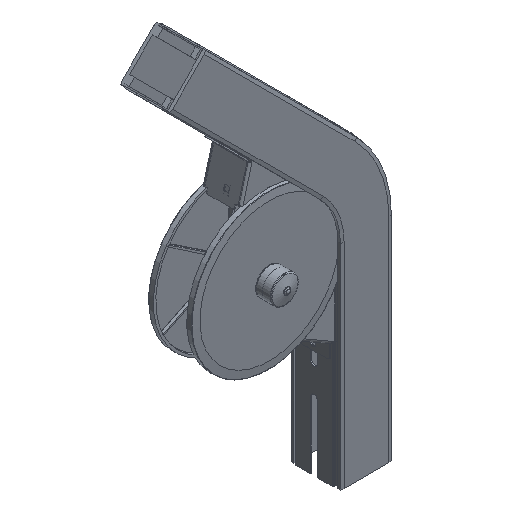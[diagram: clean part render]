
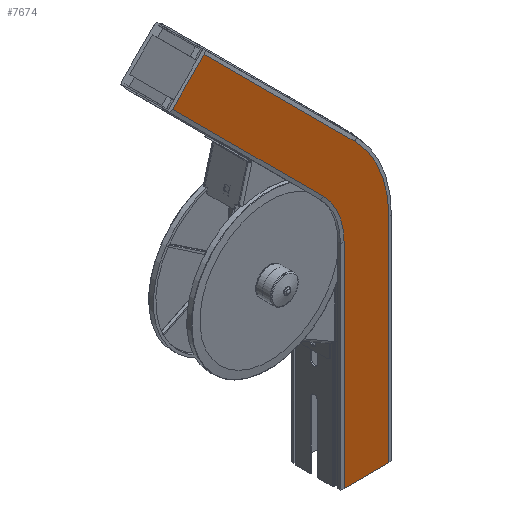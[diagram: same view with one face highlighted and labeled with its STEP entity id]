
A CAD part, isometric view. The second image highlights one B-rep face of the part: STEP entity #7674.
In plain terms, the highlighted planar face has unit normal (0, -1, 0).
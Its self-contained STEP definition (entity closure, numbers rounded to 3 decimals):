
#723=FACE_OUTER_BOUND('',#1154,.T.);
#1154=EDGE_LOOP('',(#5990,#5991,#5992,#5993,#5994,#5995,#5996,#5997));
#1554=CIRCLE('',#8366,188.5);
#1557=CIRCLE('',#8372,115.5);
#2113=LINE('',#12334,#2785);
#2118=LINE('',#12343,#2790);
#2120=LINE('',#12348,#2792);
#2135=LINE('',#12388,#2807);
#2140=LINE('',#12399,#2812);
#2141=LINE('',#12401,#2813);
#2785=VECTOR('',#9661,10.);
#2790=VECTOR('',#9668,10.);
#2792=VECTOR('',#9672,10.);
#2807=VECTOR('',#9713,10.);
#2812=VECTOR('',#9726,10.);
#2813=VECTOR('',#9729,10.);
#3423=VERTEX_POINT('',#12331);
#3424=VERTEX_POINT('',#12333);
#3427=VERTEX_POINT('',#12340);
#3428=VERTEX_POINT('',#12345);
#3438=VERTEX_POINT('',#12371);
#3440=VERTEX_POINT('',#12381);
#3441=VERTEX_POINT('',#12386);
#3443=VERTEX_POINT('',#12397);
#4323=EDGE_CURVE('',#3424,#3423,#2113,.T.);
#4328=EDGE_CURVE('',#3424,#3427,#2118,.T.);
#4330=EDGE_CURVE('',#3423,#3428,#2120,.T.);
#4343=EDGE_CURVE('',#3428,#3438,#1554,.T.);
#4349=EDGE_CURVE('',#3427,#3440,#1557,.T.);
#4351=EDGE_CURVE('',#3438,#3441,#2135,.T.);
#4356=EDGE_CURVE('',#3440,#3443,#2140,.T.);
#4357=EDGE_CURVE('',#3441,#3443,#2141,.T.);
#5990=ORIENTED_EDGE('',*,*,#4357,.T.);
#5991=ORIENTED_EDGE('',*,*,#4356,.F.);
#5992=ORIENTED_EDGE('',*,*,#4349,.F.);
#5993=ORIENTED_EDGE('',*,*,#4328,.F.);
#5994=ORIENTED_EDGE('',*,*,#4323,.T.);
#5995=ORIENTED_EDGE('',*,*,#4330,.T.);
#5996=ORIENTED_EDGE('',*,*,#4343,.T.);
#5997=ORIENTED_EDGE('',*,*,#4351,.T.);
#7383=PLANE('',#8378);
#7674=ADVANCED_FACE('',(#723),#7383,.T.);
#8366=AXIS2_PLACEMENT_3D('',#12373,#9693,#9694);
#8372=AXIS2_PLACEMENT_3D('',#12384,#9708,#9709);
#8378=AXIS2_PLACEMENT_3D('',#12400,#9727,#9728);
#9661=DIRECTION('',(1.,0.,0.));
#9668=DIRECTION('',(0.,0.,1.));
#9672=DIRECTION('',(0.,0.,1.));
#9693=DIRECTION('center_axis',(0.,-1.,0.));
#9694=DIRECTION('ref_axis',(1.,0.,0.));
#9708=DIRECTION('center_axis',(0.,-1.,0.));
#9709=DIRECTION('ref_axis',(1.,0.,0.));
#9713=DIRECTION('',(-0.707,0.,0.707));
#9726=DIRECTION('',(-0.707,0.,0.707));
#9727=DIRECTION('center_axis',(0.,-1.,0.));
#9728=DIRECTION('ref_axis',(0.707,0.,-0.707));
#9729=DIRECTION('',(-0.707,0.,-0.707));
#12331=CARTESIAN_POINT('',(36.5,-11.,0.));
#12333=CARTESIAN_POINT('',(-36.5,-11.,0.));
#12334=CARTESIAN_POINT('',(-36.5,-11.,0.));
#12340=CARTESIAN_POINT('',(-36.5,-11.,348.));
#12343=CARTESIAN_POINT('',(-36.5,-11.,0.));
#12345=CARTESIAN_POINT('',(36.5,-11.,348.));
#12348=CARTESIAN_POINT('',(36.5,-11.,0.));
#12371=CARTESIAN_POINT('',(-18.71,-11.,481.29));
#12373=CARTESIAN_POINT('Origin',(-152.,-11.,348.));
#12381=CARTESIAN_POINT('',(-70.329,-11.,429.671));
#12384=CARTESIAN_POINT('Origin',(-152.,-11.,348.));
#12386=CARTESIAN_POINT('',(-264.784,-11.,727.363));
#12388=CARTESIAN_POINT('',(311.778,-11.,150.802));
#12397=CARTESIAN_POINT('',(-316.402,-11.,675.744));
#12399=CARTESIAN_POINT('',(260.159,-11.,99.183));
#12400=CARTESIAN_POINT('Origin',(311.778,-11.,150.802));
#12401=CARTESIAN_POINT('',(-276.628,-11.,715.519));
